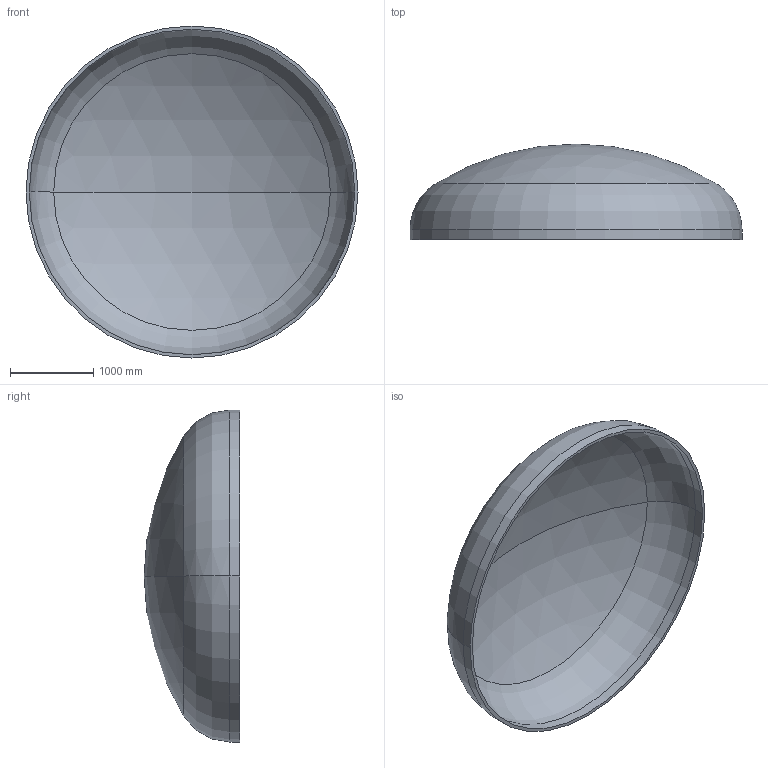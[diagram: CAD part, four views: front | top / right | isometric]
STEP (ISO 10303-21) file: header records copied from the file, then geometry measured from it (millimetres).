
FILE_DESCRIPTION (( 'STEP AP203' ), '1' );
FILE_NAME ('DIN 28013 Korbbogenform_-_Boden DIN 28013 - 4000 x 120 - I - s=39.step', '2016-07-01T22:21:46', ( '' ), ( '' ), 'SwSTEP 2.0', 'SolidWorks 2013', '' );
FILE_SCHEMA (( 'CONFIG_CONTROL_DESIGN' ));
Length unit declared in the file: millimetre
Products named in the file (1): DIN 28013 Korbbogenform_-_Boden DIN 28013 - 4000 x 120 - I - s=39
Bounding box: 4000 x 1152.08 x 4000 mm (x, y, z)
Volume: 728093852.7 mm3; surface area: 37826628.1 mm2
Topology: 1 solids, 1 shells, 13 faces, 24 edges, 14 vertices
Faces by surface type: torus 4, cylinder 4, sphere 4, plane 1
Entity records: 407 total; most frequent: DIRECTION 72, CARTESIAN_POINT 52, ORIENTED_EDGE 48, AXIS2_PLACEMENT_3D 34, EDGE_CURVE 24, CIRCLE 20, VERTEX_POINT 14, EDGE_LOOP 14
